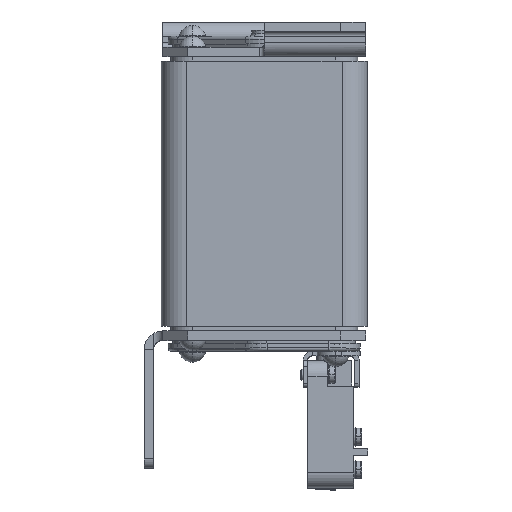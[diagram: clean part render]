
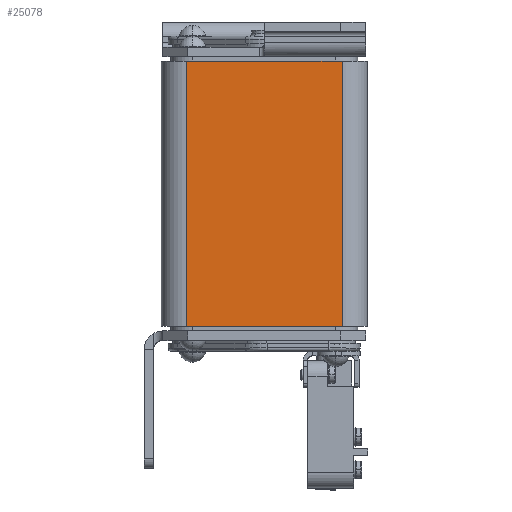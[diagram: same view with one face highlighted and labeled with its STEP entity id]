
A CAD part, top view. The second image highlights one B-rep face of the part: STEP entity #25078.
In plain terms, the highlighted planar face has unit normal (0, 0, 1).
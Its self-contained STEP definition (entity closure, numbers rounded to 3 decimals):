
#1373 = FACE_OUTER_BOUND ( 'NONE', #24010, .T. ) ;
#2644 = VERTEX_POINT ( 'NONE', #18871 ) ;
#3200 = CARTESIAN_POINT ( 'NONE',  ( -25., 42.5, 33. ) ) ;
#3648 = DIRECTION ( 'NONE',  ( -1., 0., 0. ) ) ;
#3944 = ORIENTED_EDGE ( 'NONE', *, *, #5141, .T. ) ;
#4181 = DIRECTION ( 'NONE',  ( 0., 1., 0. ) ) ;
#4933 = LINE ( 'NONE', #9915, #24787 ) ;
#5141 = EDGE_CURVE ( 'NONE', #2644, #14465, #28096, .T. ) ;
#5939 = CARTESIAN_POINT ( 'NONE',  ( -25., -42.5, 33. ) ) ;
#7619 = EDGE_CURVE ( 'NONE', #14465, #34434, #9638, .T. ) ;
#8888 = DIRECTION ( 'NONE',  ( 0., 1., 0. ) ) ;
#8971 = PLANE ( 'NONE',  #27799 ) ;
#9638 = LINE ( 'NONE', #26118, #33065 ) ;
#9915 = CARTESIAN_POINT ( 'NONE',  ( -25., -42.5, 33. ) ) ;
#10052 = DIRECTION ( 'NONE',  ( -1., 0., 0. ) ) ;
#10854 = VECTOR ( 'NONE', #8888, 1000. ) ;
#12181 = DIRECTION ( 'NONE',  ( 0., 0., -1. ) ) ;
#12742 = EDGE_CURVE ( 'NONE', #18241, #34434, #26808, .T. ) ;
#12764 = CARTESIAN_POINT ( 'NONE',  ( -25., -42.5, 33. ) ) ;
#14465 = VERTEX_POINT ( 'NONE', #34127 ) ;
#16205 = EDGE_CURVE ( 'NONE', #2644, #18241, #4933, .T. ) ;
#18241 = VERTEX_POINT ( 'NONE', #5939 ) ;
#18871 = CARTESIAN_POINT ( 'NONE',  ( 25., -42.5, 33. ) ) ;
#20179 = CARTESIAN_POINT ( 'NONE',  ( 25., -42.5, 33. ) ) ;
#21488 = ORIENTED_EDGE ( 'NONE', *, *, #7619, .T. ) ;
#22191 = ORIENTED_EDGE ( 'NONE', *, *, #16205, .F. ) ;
#24010 = EDGE_LOOP ( 'NONE', ( #21488, #31370, #22191, #3944 ) ) ;
#24787 = VECTOR ( 'NONE', #10052, 1000. ) ;
#25078 = ADVANCED_FACE ( 'NONE', ( #1373 ), #8971, .F. ) ;
#26118 = CARTESIAN_POINT ( 'NONE',  ( -25., 42.5, 33. ) ) ;
#26808 = LINE ( 'NONE', #12764, #34715 ) ;
#27799 = AXIS2_PLACEMENT_3D ( 'NONE', #31599, #12181, #29247 ) ;
#28096 = LINE ( 'NONE', #20179, #10854 ) ;
#29247 = DIRECTION ( 'NONE',  ( 1., 0., 0. ) ) ;
#31370 = ORIENTED_EDGE ( 'NONE', *, *, #12742, .F. ) ;
#31599 = CARTESIAN_POINT ( 'NONE',  ( -25., -42.5, 33. ) ) ;
#33065 = VECTOR ( 'NONE', #3648, 1000. ) ;
#34127 = CARTESIAN_POINT ( 'NONE',  ( 25., 42.5, 33. ) ) ;
#34434 = VERTEX_POINT ( 'NONE', #3200 ) ;
#34715 = VECTOR ( 'NONE', #4181, 1000. ) ;
